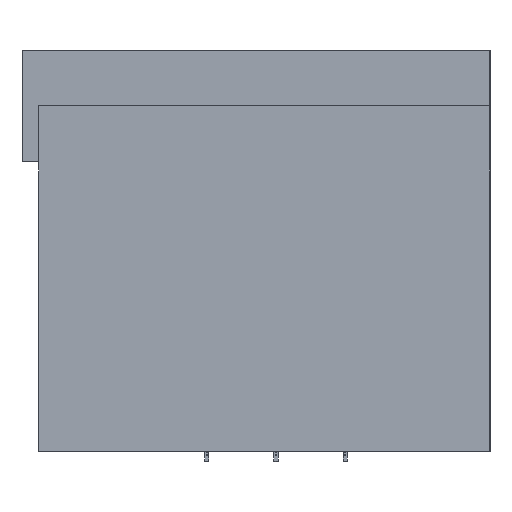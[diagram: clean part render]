
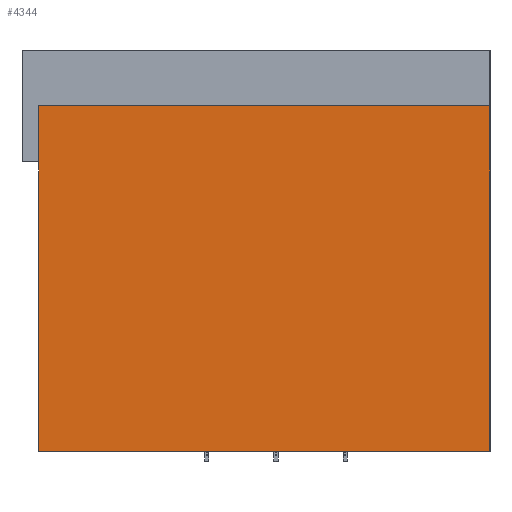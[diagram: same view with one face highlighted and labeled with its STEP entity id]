
A CAD part, left-side view. The second image highlights one B-rep face of the part: STEP entity #4344.
In plain terms, the highlighted planar face has unit normal (-1, 0, 0).
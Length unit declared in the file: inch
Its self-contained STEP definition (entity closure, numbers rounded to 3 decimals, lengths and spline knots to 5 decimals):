
#903=FACE_OUTER_BOUND('',#1132,.T.);
#1132=EDGE_LOOP('',(#3208,#3209,#3210,#3211));
#1395=LINE('',#6430,#1846);
#1398=LINE('',#6436,#1849);
#1401=LINE('',#6442,#1852);
#1404=LINE('',#6446,#1855);
#1846=VECTOR('',#5272,0.3937);
#1849=VECTOR('',#5277,0.3937);
#1852=VECTOR('',#5282,0.3937);
#1855=VECTOR('',#5287,0.3937);
#2287=VERTEX_POINT('',#6427);
#2288=VERTEX_POINT('',#6429);
#2290=VERTEX_POINT('',#6435);
#2292=VERTEX_POINT('',#6441);
#2641=EDGE_CURVE('',#2288,#2287,#1395,.T.);
#2644=EDGE_CURVE('',#2290,#2288,#1398,.T.);
#2647=EDGE_CURVE('',#2292,#2290,#1401,.T.);
#2650=EDGE_CURVE('',#2287,#2292,#1404,.T.);
#3208=ORIENTED_EDGE('',*,*,#2650,.T.);
#3209=ORIENTED_EDGE('',*,*,#2647,.T.);
#3210=ORIENTED_EDGE('',*,*,#2644,.T.);
#3211=ORIENTED_EDGE('',*,*,#2641,.T.);
#4150=PLANE('',#4860);
#4344=ADVANCED_FACE('',(#903),#4150,.T.);
#4860=AXIS2_PLACEMENT_3D('',#6447,#5288,#5289);
#5272=DIRECTION('',(0.,0.,-1.));
#5277=DIRECTION('',(0.,1.,0.));
#5282=DIRECTION('',(0.,0.,1.));
#5287=DIRECTION('',(0.,-1.,0.));
#5288=DIRECTION('center_axis',(-1.,0.,0.));
#5289=DIRECTION('ref_axis',(0.,0.,1.));
#6427=CARTESIAN_POINT('',(-82.5,40.5,-31.));
#6429=CARTESIAN_POINT('',(-82.5,40.5,0.));
#6430=CARTESIAN_POINT('',(-82.5,40.5,0.));
#6435=CARTESIAN_POINT('',(-82.5,0.,0.));
#6436=CARTESIAN_POINT('',(-82.5,0.,0.));
#6441=CARTESIAN_POINT('',(-82.5,0.,-31.));
#6442=CARTESIAN_POINT('',(-82.5,0.,-31.));
#6446=CARTESIAN_POINT('',(-82.5,40.5,-31.));
#6447=CARTESIAN_POINT('Origin',(-82.5,20.25,-15.5));
